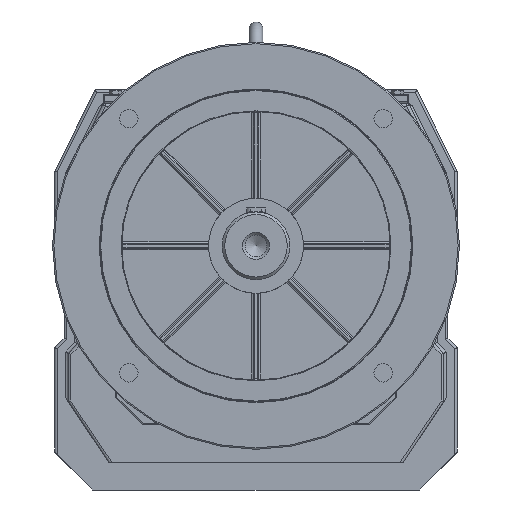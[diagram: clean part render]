
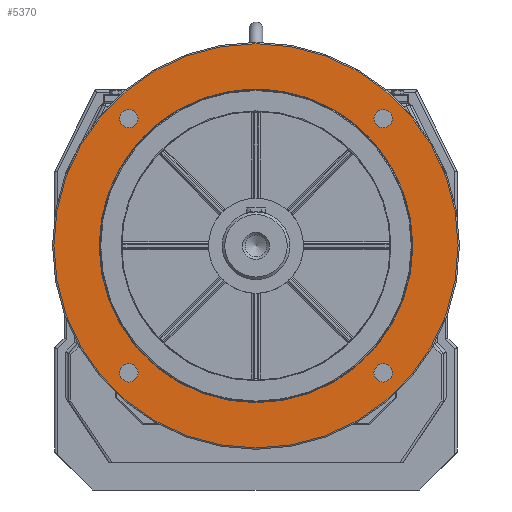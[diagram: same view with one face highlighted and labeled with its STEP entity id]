
A CAD part, front view. The second image highlights one B-rep face of the part: STEP entity #5370.
In plain terms, the highlighted planar face has unit normal (0, -1, 0).
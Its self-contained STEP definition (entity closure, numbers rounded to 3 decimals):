
#5292=CARTESIAN_POINT('',(0.0,-170.,329.0));
#5293=VERTEX_POINT('',#5292);
#5294=CARTESIAN_POINT('',(0.0,-170.,180.0));
#5295=DIRECTION('',(0.0,1.0,0.0));
#5296=DIRECTION('',(0.0,0.0,-1.0));
#5297=AXIS2_PLACEMENT_3D('',#5294,#5295,#5296);
#5298=CIRCLE('',#5297,149.0);
#5299=EDGE_CURVE('',#5293,#5293,#5298,.T.);
#5307=CARTESIAN_POINT('',(0.0,-170.,312.5));
#5308=DIRECTION('',(0.0,-1.0,0.0));
#5309=DIRECTION('',(0.0,0.0,-1.0));
#5310=AXIS2_PLACEMENT_3D('',#5307,#5308,#5309);
#5311=PLANE('',#5310);
#5312=ORIENTED_EDGE('',*,*,#5299,.F.);
#5313=EDGE_LOOP('',(#5312));
#5314=FACE_OUTER_BOUND('',#5313,.T.);
#5315=CARTESIAN_POINT('',(0.,-170.,295.5));
#5316=VERTEX_POINT('',#5315);
#5317=CARTESIAN_POINT('',(0.0,-170.,180.0));
#5318=DIRECTION('',(0.0,-1.0,0.0));
#5319=DIRECTION('',(0.0,0.0,-1.0));
#5320=AXIS2_PLACEMENT_3D('',#5317,#5318,#5319);
#5321=CIRCLE('',#5320,115.5);
#5322=EDGE_CURVE('',#5316,#5316,#5321,.T.);
#5323=ORIENTED_EDGE('',*,*,#5322,.F.);
#5324=EDGE_LOOP('',(#5323));
#5325=FACE_BOUND('',#5324,.T.);
#5326=CARTESIAN_POINT('',(-86.942,-170.,273.692));
#5327=VERTEX_POINT('',#5326);
#5328=CARTESIAN_POINT('',(-93.692,-170.,273.692));
#5329=DIRECTION('',(0.0,1.0,0.0));
#5330=DIRECTION('',(1.0,0.0,0.0));
#5331=AXIS2_PLACEMENT_3D('',#5328,#5329,#5330);
#5332=CIRCLE('',#5331,6.75);
#5333=EDGE_CURVE('',#5327,#5327,#5332,.T.);
#5334=ORIENTED_EDGE('',*,*,#5333,.T.);
#5335=EDGE_LOOP('',(#5334));
#5336=FACE_BOUND('',#5335,.T.);
#5337=CARTESIAN_POINT('',(100.442,-170.,273.692));
#5338=VERTEX_POINT('',#5337);
#5339=CARTESIAN_POINT('',(93.692,-170.,273.692));
#5340=DIRECTION('',(0.0,1.0,0.0));
#5341=DIRECTION('',(1.0,0.0,0.0));
#5342=AXIS2_PLACEMENT_3D('',#5339,#5340,#5341);
#5343=CIRCLE('',#5342,6.75);
#5344=EDGE_CURVE('',#5338,#5338,#5343,.T.);
#5345=ORIENTED_EDGE('',*,*,#5344,.T.);
#5346=EDGE_LOOP('',(#5345));
#5347=FACE_BOUND('',#5346,.T.);
#5348=CARTESIAN_POINT('',(-86.942,-170.,86.308));
#5349=VERTEX_POINT('',#5348);
#5350=CARTESIAN_POINT('',(-93.692,-170.,86.308));
#5351=DIRECTION('',(0.0,1.0,0.0));
#5352=DIRECTION('',(1.0,0.0,0.0));
#5353=AXIS2_PLACEMENT_3D('',#5350,#5351,#5352);
#5354=CIRCLE('',#5353,6.75);
#5355=EDGE_CURVE('',#5349,#5349,#5354,.T.);
#5356=ORIENTED_EDGE('',*,*,#5355,.T.);
#5357=EDGE_LOOP('',(#5356));
#5358=FACE_BOUND('',#5357,.T.);
#5359=CARTESIAN_POINT('',(100.442,-170.,86.308));
#5360=VERTEX_POINT('',#5359);
#5361=CARTESIAN_POINT('',(93.692,-170.,86.308));
#5362=DIRECTION('',(0.0,1.0,0.0));
#5363=DIRECTION('',(1.0,0.0,0.0));
#5364=AXIS2_PLACEMENT_3D('',#5361,#5362,#5363);
#5365=CIRCLE('',#5364,6.75);
#5366=EDGE_CURVE('',#5360,#5360,#5365,.T.);
#5367=ORIENTED_EDGE('',*,*,#5366,.T.);
#5368=EDGE_LOOP('',(#5367));
#5369=FACE_BOUND('',#5368,.T.);
#5370=ADVANCED_FACE('',(#5314,#5325,#5336,#5347,#5358,#5369),#5311,.T.);
